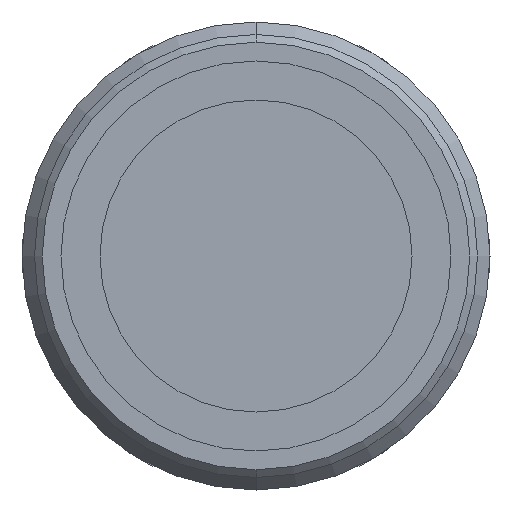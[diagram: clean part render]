
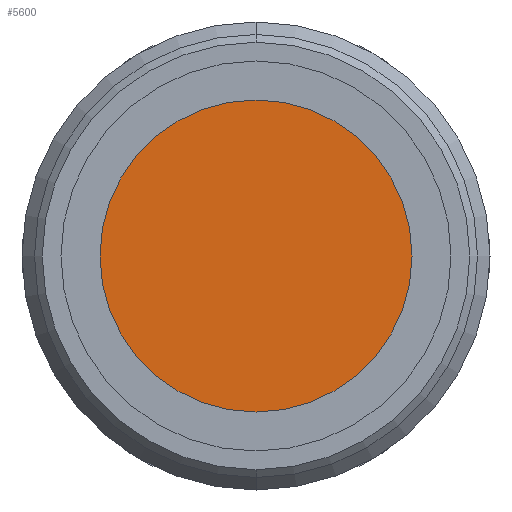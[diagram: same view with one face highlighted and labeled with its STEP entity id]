
A CAD part, front view. The second image highlights one B-rep face of the part: STEP entity #5600.
In plain terms, the highlighted planar face has unit normal (0, -1, 0).
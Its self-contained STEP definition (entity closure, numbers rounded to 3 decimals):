
#127 = EDGE_CURVE ( 'NONE', #12135, #1513, #3003, .T. ) ;
#994 = CARTESIAN_POINT ( 'NONE',  ( 0., 0.101, 0. ) ) ;
#1513 = VERTEX_POINT ( 'NONE', #4994 ) ;
#2073 = DIRECTION ( 'NONE',  ( 0., 0., -1. ) ) ;
#2428 = PLANE ( 'NONE',  #12421 ) ;
#3003 = CIRCLE ( 'NONE', #7122, 10. ) ;
#3530 = DIRECTION ( 'NONE',  ( 0., 1., 0. ) ) ;
#4994 = CARTESIAN_POINT ( 'NONE',  ( 0., 0.101, 10. ) ) ;
#5600 = ADVANCED_FACE ( 'NONE', ( #11877 ), #2428, .F. ) ;
#5892 = DIRECTION ( 'NONE',  ( 0., -1., 0. ) ) ;
#6689 = CARTESIAN_POINT ( 'NONE',  ( -10., 0.101, 0. ) ) ;
#7122 = AXIS2_PLACEMENT_3D ( 'NONE', #994, #8577, #2073 ) ;
#8577 = DIRECTION ( 'NONE',  ( 0., -1., 0. ) ) ;
#8839 = CARTESIAN_POINT ( 'NONE',  ( 0., 0.101, -10. ) ) ;
#10195 = EDGE_LOOP ( 'NONE', ( #12910, #13579 ) ) ;
#11099 = DIRECTION ( 'NONE',  ( 0., 0., 1. ) ) ;
#11877 = FACE_OUTER_BOUND ( 'NONE', #10195, .T. ) ;
#12135 = VERTEX_POINT ( 'NONE', #8839 ) ;
#12178 = EDGE_CURVE ( 'NONE', #1513, #12135, #13822, .T. ) ;
#12375 = CARTESIAN_POINT ( 'NONE',  ( 0., 0.101, 0. ) ) ;
#12421 = AXIS2_PLACEMENT_3D ( 'NONE', #6689, #3530, #11099 ) ;
#12910 = ORIENTED_EDGE ( 'NONE', *, *, #127, .T. ) ;
#13491 = DIRECTION ( 'NONE',  ( 0., 0., -1. ) ) ;
#13579 = ORIENTED_EDGE ( 'NONE', *, *, #12178, .T. ) ;
#13822 = CIRCLE ( 'NONE', #13933, 10. ) ;
#13933 = AXIS2_PLACEMENT_3D ( 'NONE', #12375, #5892, #13491 ) ;
